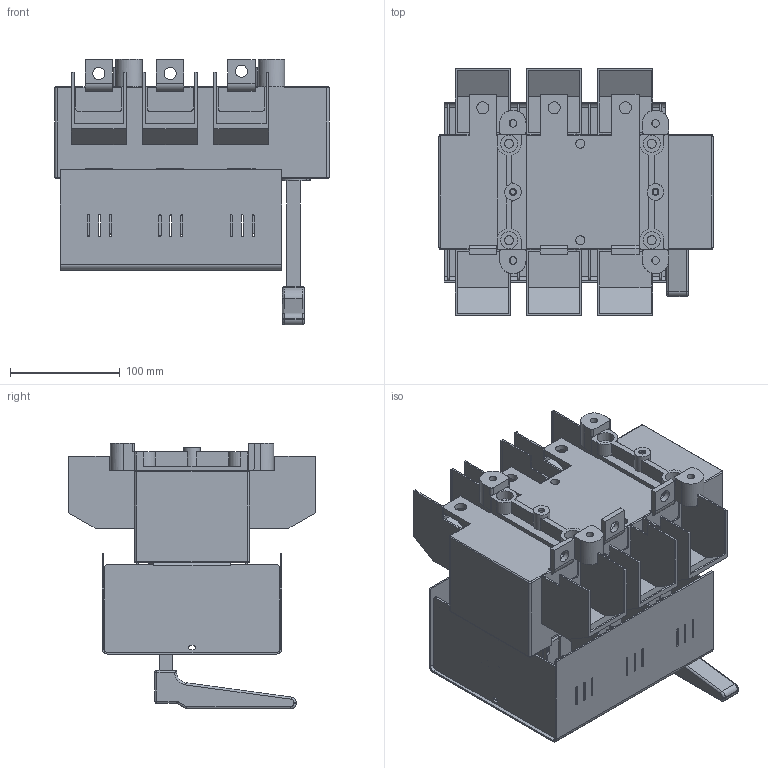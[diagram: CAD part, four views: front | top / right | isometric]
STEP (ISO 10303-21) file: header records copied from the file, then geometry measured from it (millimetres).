
FILE_DESCRIPTION(/* description */ (''),/* implementation_level */ '2;1');
FILE_NAME(/* name */ 'RAB 2 P3 A-R z oslona zaciskow.stp',/* time_stamp */ '2021-08-19T13:34:42+02:00',/* author */ (''),/* organization */ (''),/* preprocessor_version */ 'ST-DEVELOPER v18.1',/* originating_system */ 'SIEMENS PLM Software NX 1965',/* authorisation */ '');
FILE_SCHEMA (('AUTOMOTIVE_DESIGN { 1 0 10303 214 3 1 1 1 }'));
Length unit declared in the file: millimetre
Products named in the file (1): RAB 2 P3 A-R z oslona zaciskow
Bounding box: 250 x 225 x 242.3 mm (x, y, z)
Volume: 2599912 mm3; surface area: 570510.4 mm2
Topology: 1 solids, 7 shells, 1333 faces, 3666 edges, 2361 vertices
Faces by surface type: plane 896, cylinder 415, bspline 8, torus 8, sphere 6
Full cylindrical faces by diameter (mm): 4.8 x2, 5.2 x18, 6.2 x2, 7 x4, 8.2 x6, 11 x6, 14 x4, 15 x2, 15.5 x4
Entity records: 42204 total; most frequent: CARTESIAN_POINT 7581, ORIENTED_EDGE 7208, DIRECTION 7118, EDGE_CURVE 3604, LINE 2714, VECTOR 2714, VERTEX_POINT 2350, AXIS2_PLACEMENT_3D 2202
